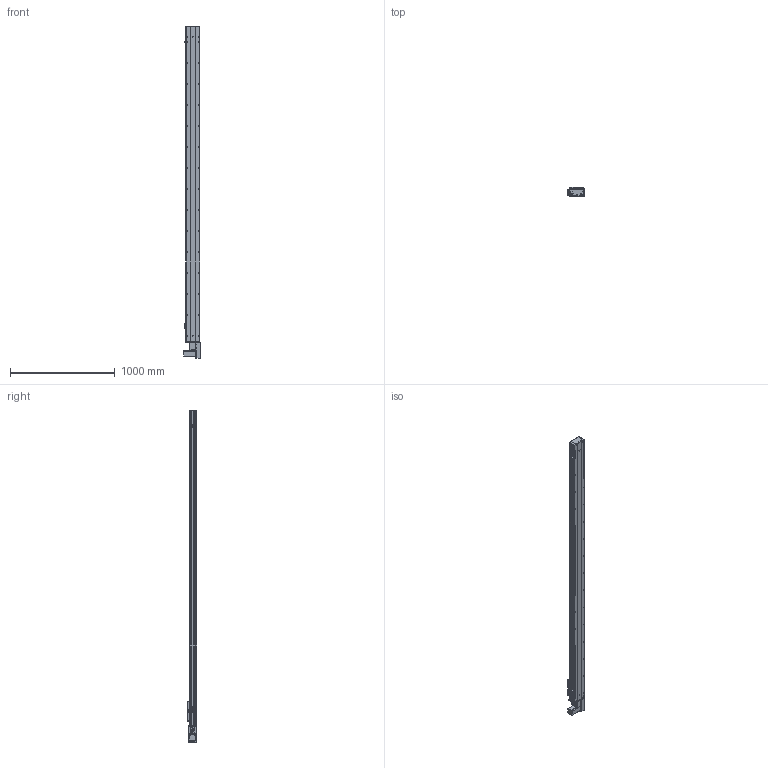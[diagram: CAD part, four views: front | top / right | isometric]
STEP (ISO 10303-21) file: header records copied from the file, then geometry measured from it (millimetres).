
FILE_DESCRIPTION (( 'STEP AP203' ), '1' );
FILE_NAME ('Y135CB-D90-S2700-BL-P400W.STEP', '2020-02-18T01:47:00', ( '微软用户' ), ( '微软中国' ), 'SwSTEP 2.0', 'SolidWorks 2017', '' );
FILE_SCHEMA (( 'CONFIG_CONTROL_DESIGN' ));
Length unit declared in the file: millimetre
Products named in the file (18): C-雄赽釱--; 0B-萇儂楊擘啣; Y135CB-耜裔; Y135CB-D90-S2700-BL-P400W; san松下电机400不带刹车----; 135CB---遴掛极.-; 5CB --掛极耜裔啣-; 35CB---喘謫眊楊擘啣; C-詩湍揤踡え-陔; Y10B--々湍喘謫眊--666; 135CB--詩湍-CE; Y10B-耜蚾蟀諉啣----; Y100-135俋离換覜ん--; Y俋欶BR----; Y135C-陔俋离換覜結え-; 0B-埴倛裔啣; 5C--俋欶; 0B-源倛裔啣
Assembly tree (21 placements, depth 2):
  Y135CB-D90-S2700-BL-P400W
    Y135CB-耜裔
    135CB---遴掛极.-
    35CB---喘謫眊楊擘啣
    Y10B--々湍喘謫眊--666
    Y10B-耜蚾蟀諉啣----
    Y俋欶BR----
    0B-埴倛裔啣
    0B-源倛裔啣
    0B-萇儂楊擘啣
    san松下电机400不带刹车----
    5CB --掛极耜裔啣-  x2
    C-詩湍揤踡え-陔  x2
    135CB--詩湍-CE
    Y100-135俋离換覜ん--  x3
    Y135C-陔俋离換覜結え-
    5C--俋欶
    C-雄赽釱--
Bounding box: 157.5 x 91 x 3164.5 mm (x, y, z)
Volume: 8801937.5 mm3; surface area: 3489665.1 mm2
Topology: 21 solids, 21 shells, 981 faces, 2689 edges, 1782 vertices
Faces by surface type: cylinder 507, plane 458, cone 16
Entity records: 31159 total; most frequent: CARTESIAN_POINT 5208, DIRECTION 5177, ORIENTED_EDGE 4854, EDGE_CURVE 2427, AXIS2_PLACEMENT_3D 1899, VERTEX_POINT 1610, LINE 1379, VECTOR 1379
